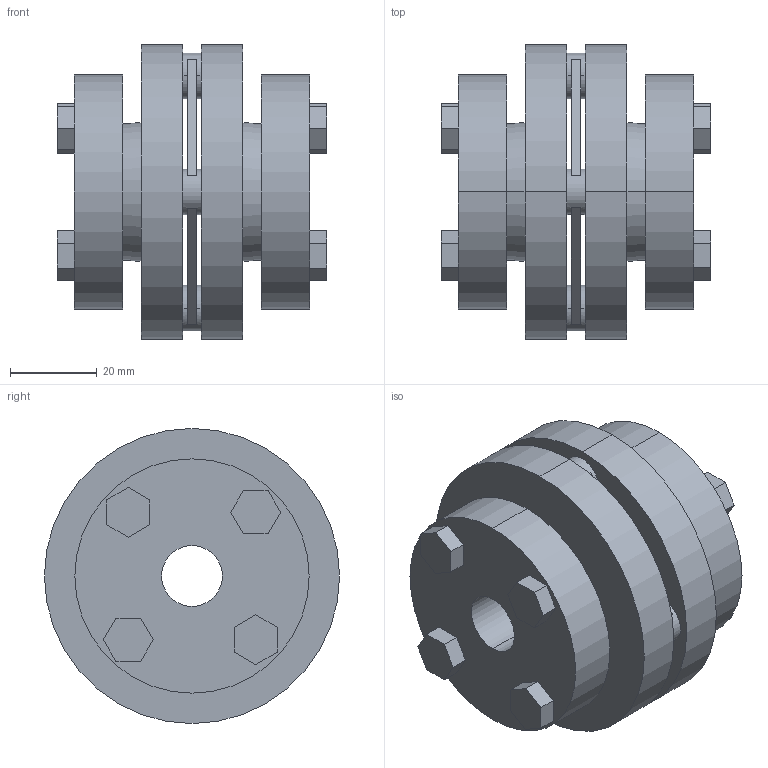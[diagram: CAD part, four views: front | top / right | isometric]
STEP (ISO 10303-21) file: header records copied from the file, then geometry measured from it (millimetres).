
FILE_DESCRIPTION (( 'STEP AP203' ), '1' );
FILE_NAME ('SW-68(D£p14~£p22).STEP', '2009-09-30T15:44:57', ( 'USER' ), ( 'HOME' ), 'SwSTEP 2.0', 'SolidWorks 2007', '' );
FILE_SCHEMA (( 'CONFIG_CONTROL_DESIGN' ));
Length unit declared in the file: millimetre
Products named in the file (1): SW-68(D｣p14~｣p22)
Bounding box: 62.2 x 68 x 68 mm (x, y, z)
Volume: 128085.9 mm3; surface area: 37032.8 mm2
Topology: 9 solids, 9 shells, 108 faces, 270 edges, 180 vertices
Faces by surface type: plane 78, cylinder 26, cone 4
Entity records: 3327 total; most frequent: DIRECTION 564, CARTESIAN_POINT 559, ORIENTED_EDGE 540, EDGE_CURVE 270, LINE 194, VECTOR 194, AXIS2_PLACEMENT_3D 185, VERTEX_POINT 180
